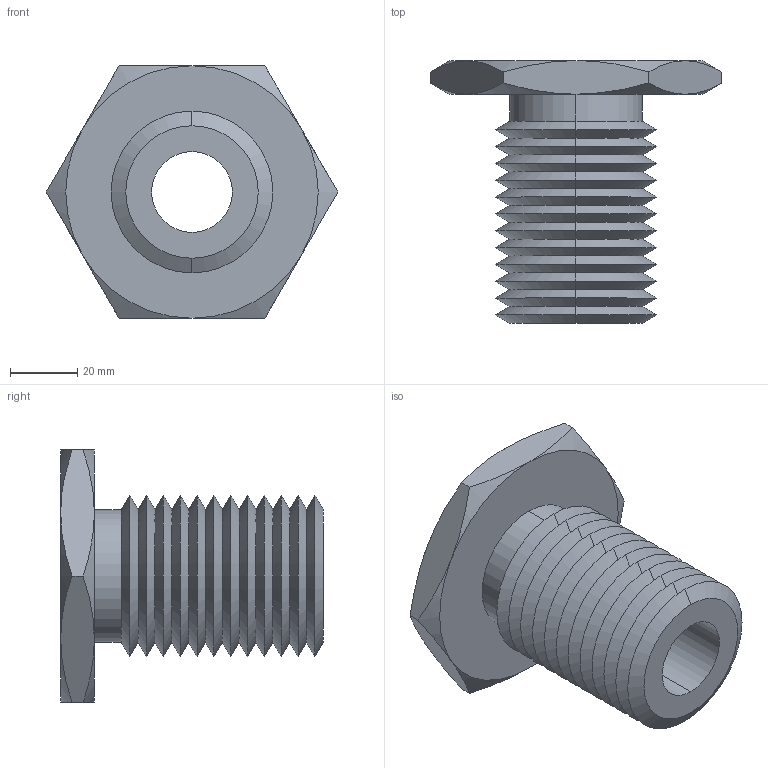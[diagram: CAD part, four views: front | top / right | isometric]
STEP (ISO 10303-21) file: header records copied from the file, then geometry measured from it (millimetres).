
FILE_DESCRIPTION (( 'STEP AP203' ), '1' );
FILE_NAME ('63302.W0048_M24x3.step', '2013-12-08T11:17:29', ( 'User' ), ( '' ), 'SwSTEP 2.0', 'SolidWorks 2009', '' );
FILE_SCHEMA (( 'CONFIG_CONTROL_DESIGN' ));
Length unit declared in the file: millimetre
Products named in the file (1): 63302.W0048_M24x3
Bounding box: 86.6 x 78 x 75 mm (x, y, z)
Volume: 112030 mm3; surface area: 34191.6 mm2
Topology: 1 solids, 1 shells, 75 faces, 154 edges, 82 vertices
Faces by surface type: cone 62, plane 9, cylinder 4
Entity records: 2139 total; most frequent: CARTESIAN_POINT 496, DIRECTION 352, ORIENTED_EDGE 308, EDGE_CURVE 154, AXIS2_PLACEMENT_3D 146, VERTEX_POINT 82, EDGE_LOOP 78, ADVANCED_FACE 75
